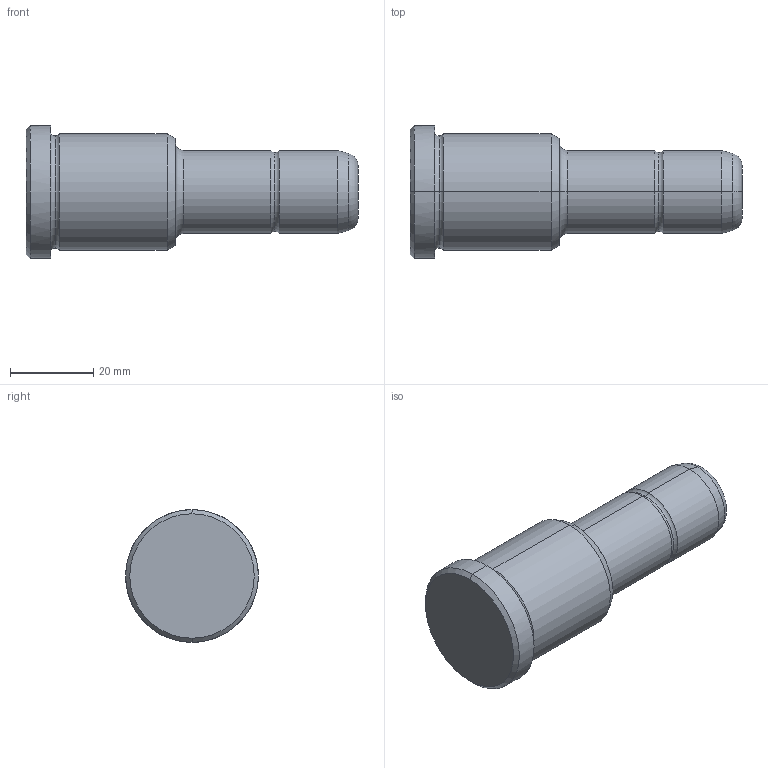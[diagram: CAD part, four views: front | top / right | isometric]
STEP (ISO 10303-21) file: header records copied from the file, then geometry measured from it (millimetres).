
FILE_DESCRIPTION(('CATIA V5 STEP Exchange'),'2;1');
FILE_NAME('C:\Users\Utente\Desktop\IO LAVORO\3D X SITO CF\X SITO\PLASTICA\351\351-20X36X80.stp','2021-08-27T12:26:53+00:00',('none'),('none'),'CATIA Version 5 Release 20 GA (IN-10)','CATIA V5 STEP AP203','none');
FILE_SCHEMA(('CONFIG_CONTROL_DESIGN'));
Length unit declared in the file: millimetre
Products named in the file (1): 351-20X36X80
Bounding box: 80 x 32 x 32 mm (x, y, z)
Volume: 36671.9 mm3; surface area: 7334.1 mm2
Topology: 1 solids, 1 shells, 30 faces, 86 edges, 60 vertices
Faces by surface type: torus 12, cylinder 8, cone 6, plane 4
Entity records: 1112 total; most frequent: CARTESIAN_POINT 289, ORIENTED_EDGE 172, DIRECTION 138, AXIS2_PLACEMENT_3D 95, EDGE_CURVE 86, CIRCLE 64, VERTEX_POINT 60, EDGE_LOOP 32
